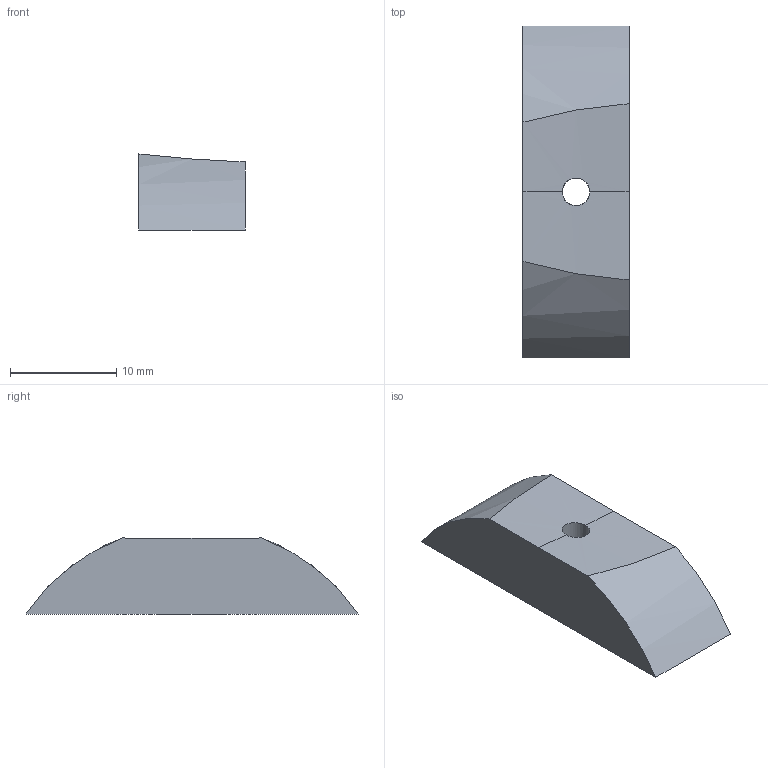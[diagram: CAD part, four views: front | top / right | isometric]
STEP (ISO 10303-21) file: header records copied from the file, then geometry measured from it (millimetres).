
FILE_DESCRIPTION(('SkyG Speed 90B - revision C6B-6 - 2026-10-08','NB1-wing-nut-bar-front'),'2;1');
FILE_NAME('NB1-wing-nut-bar-front_C6B-6','2026-10-08T12:31:00',('Author'),( 'Open CASCADE'),'Open CASCADE STEP processor 7.9','Open CASCADE 7.9' ,'Unknown');
FILE_SCHEMA(('AUTOMOTIVE_DESIGN { 1 0 10303 214 1 1 1 1 }'));
Length unit declared in the file: millimetre
Products named in the file (1): NB1-wing-nut-bar-front C6B-6
Bounding box: 10 x 31.31 x 7.17 mm (x, y, z)
Volume: 1539.4 mm3; surface area: 1104.9 mm2
Topology: 1 solids, 1 shells, 15 faces, 38 edges, 25 vertices
Faces by surface type: plane 10, cylinder 3, bspline 2
Full cylindrical faces by diameter (mm): 2.6 x1
Entity records: 2439 total; most frequent: CARTESIAN_POINT 1731, DIRECTION 103, ORIENTED_EDGE 76, PCURVE 76, DEFINITIONAL_REPRESENTATION 76, LINE 60, VECTOR 60, B_SPLINE_CURVE_WITH_KNOTS 44
